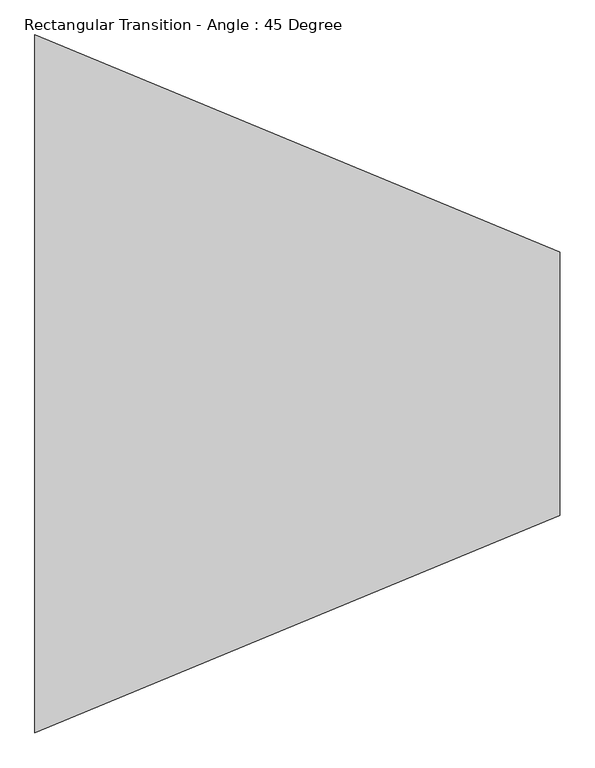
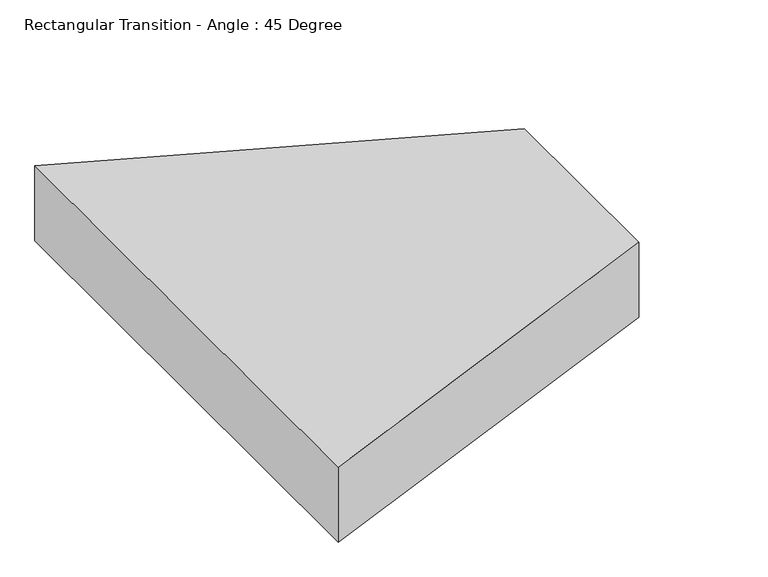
"""IFC4 building model written with IfcOpenShell, lengths in millimetres: duct fitting geometry, Rectangular Transition - Angle : 45 Degree."""

from ifc_helpers import new_model, si_unit, frame, origin, place, context, project, spatial, polyline, outline, extrude, source, transform, mapped, element, save


def rectangular_transition_angle_45_degree_5314cfe0(model_context):
    return source(origin(), model_context, "Body", "SweptSolid", [
        extrude(outline(polyline([(0.0, -673.1), (0.0, 673.1), (1011.796904, 254.0), (1011.796904, -254.0), (0.0, -673.1)])), frame((0.0, 0.0, -101.6), z_axis=(0.0, 0.0, 1.0), x_axis=(1.0, 0.0, 0.0)), (0.0, 0.0, 1.0), 203.2),
    ])


if __name__ == "__main__":
    model = new_model("IFC4")
    model_context = context("Model", 3, world=origin())
    ifc_project = project(units=[si_unit("LENGTHUNIT", "METRE", prefix="MILLI")], contexts=[model_context])
    site = spatial("IfcSite", under=ifc_project)
    building = spatial("IfcBuilding", under=site)
    placement = place(None, origin())
    rectangular_transition_angle_45_degree_shape = rectangular_transition_angle_45_degree_5314cfe0(model_context)
    element("IfcDuctFitting", 1, ObjectType="Rectangular Transition - Angle : 45 Degree", at=placement, inside=building, context=model_context, shape_type="MappedRepresentation", body=[
        mapped(rectangular_transition_angle_45_degree_shape, transform((0.0, 0.0, 0.0), x_axis=(1.0, 0.0, 0.0), y_axis=(0.0, 1.0, 0.0), z_axis=(0.0, 0.0, 1.0))),
    ])
    save(model, "model.ifc")
